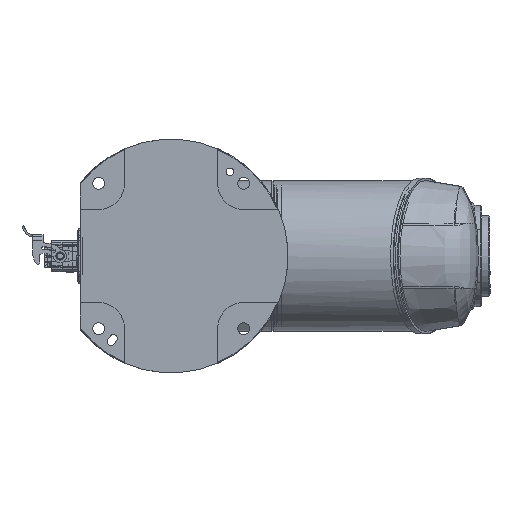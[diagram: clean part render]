
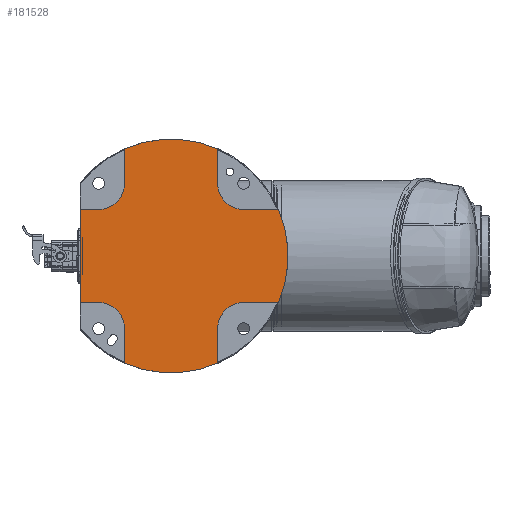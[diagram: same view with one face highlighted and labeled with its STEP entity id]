
A CAD part, front view. The second image highlights one B-rep face of the part: STEP entity #181528.
In plain terms, the highlighted planar face has unit normal (0, -1, 0).
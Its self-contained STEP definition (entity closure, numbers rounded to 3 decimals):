
#55 = DIRECTION ( 'NONE',  ( 0., 0., 1. ) ) ;
#235 = VERTEX_POINT ( 'NONE', #166113 ) ;
#3056 = DIRECTION ( 'NONE',  ( 0., 0., 1. ) ) ;
#3940 = DIRECTION ( 'NONE',  ( 0., 0., -1. ) ) ;
#5875 = VECTOR ( 'NONE', #69474, 1000. ) ;
#6573 = DIRECTION ( 'NONE',  ( 0., 0., -1. ) ) ;
#10489 = VECTOR ( 'NONE', #165124, 1000. ) ;
#13159 = EDGE_CURVE ( 'NONE', #235, #125738, #168222, .T. ) ;
#14698 = CARTESIAN_POINT ( 'NONE',  ( 55.861, 2., -55.861 ) ) ;
#15802 = EDGE_CURVE ( 'NONE', #90125, #20975, #70532, .T. ) ;
#16482 = LINE ( 'NONE', #162201, #109058 ) ;
#20243 = LINE ( 'NONE', #111161, #186956 ) ;
#20975 = VERTEX_POINT ( 'NONE', #171643 ) ;
#21439 = CARTESIAN_POINT ( 'NONE',  ( -35.861, 2., -55.861 ) ) ;
#25688 = VECTOR ( 'NONE', #30021, 1000. ) ;
#25998 = AXIS2_PLACEMENT_3D ( 'NONE', #14698, #89055, #61161 ) ;
#26369 = CARTESIAN_POINT ( 'NONE',  ( 0., 2., 0. ) ) ;
#27655 = DIRECTION ( 'NONE',  ( 0., -1., 0. ) ) ;
#29309 = LINE ( 'NONE', #145190, #5875 ) ;
#30021 = DIRECTION ( 'NONE',  ( 0., 0., 1. ) ) ;
#30135 = ORIENTED_EDGE ( 'NONE', *, *, #74120, .T. ) ;
#30630 = CARTESIAN_POINT ( 'NONE',  ( -55.861, 2., -55.861 ) ) ;
#33577 = ORIENTED_EDGE ( 'NONE', *, *, #86633, .T. ) ;
#39551 = EDGE_CURVE ( 'NONE', #113455, #117697, #184183, .T. ) ;
#41720 = ORIENTED_EDGE ( 'NONE', *, *, #153836, .T. ) ;
#43777 = DIRECTION ( 'NONE',  ( 0., 0., -1. ) ) ;
#45511 = AXIS2_PLACEMENT_3D ( 'NONE', #51333, #81085, #139363 ) ;
#46457 = VERTEX_POINT ( 'NONE', #58087 ) ;
#47118 = DIRECTION ( 'NONE',  ( 0., 0., -1. ) ) ;
#49381 = AXIS2_PLACEMENT_3D ( 'NONE', #179909, #181820, #91868 ) ;
#51333 = CARTESIAN_POINT ( 'NONE',  ( 55.861, 2., -55.861 ) ) ;
#51913 = CARTESIAN_POINT ( 'NONE',  ( 70., 2., -35.861 ) ) ;
#53121 = CARTESIAN_POINT ( 'NONE',  ( -35.861, 2., -82.547 ) ) ;
#53376 = CARTESIAN_POINT ( 'NONE',  ( 55.861, 2., 35.861 ) ) ;
#55190 = AXIS2_PLACEMENT_3D ( 'NONE', #105490, #167007, #3940 ) ;
#58087 = CARTESIAN_POINT ( 'NONE',  ( 70., 2., 35.861 ) ) ;
#58091 = LINE ( 'NONE', #122166, #76668 ) ;
#58978 = VECTOR ( 'NONE', #55, 1000. ) ;
#60668 = CARTESIAN_POINT ( 'NONE',  ( -35.861, 2., 82.547 ) ) ;
#61161 = DIRECTION ( 'NONE',  ( 0., 0., -1. ) ) ;
#61465 = CARTESIAN_POINT ( 'NONE',  ( 35.861, 2., -82.547 ) ) ;
#67142 = CARTESIAN_POINT ( 'NONE',  ( -55.861, 2., -35.861 ) ) ;
#67916 = EDGE_CURVE ( 'NONE', #172184, #135442, #85033, .T. ) ;
#68424 = EDGE_CURVE ( 'NONE', #125738, #90125, #20243, .T. ) ;
#69474 = DIRECTION ( 'NONE',  ( 1., 0., 0. ) ) ;
#70532 = CIRCLE ( 'NONE', #87492, 90. ) ;
#72451 = EDGE_CURVE ( 'NONE', #121697, #172184, #86548, .T. ) ;
#73327 = DIRECTION ( 'NONE',  ( 0., 0., -1. ) ) ;
#74120 = EDGE_CURVE ( 'NONE', #160908, #175417, #88586, .T. ) ;
#74849 = CARTESIAN_POINT ( 'NONE',  ( 35.861, 2., 55.861 ) ) ;
#75339 = CARTESIAN_POINT ( 'NONE',  ( 35.861, 2., 82.547 ) ) ;
#76668 = VECTOR ( 'NONE', #47118, 1000. ) ;
#77168 = EDGE_CURVE ( 'NONE', #175417, #101768, #58091, .T. ) ;
#81085 = DIRECTION ( 'NONE',  ( 0., -1., 0. ) ) ;
#81579 = DIRECTION ( 'NONE',  ( 0., -1., 0. ) ) ;
#85033 = LINE ( 'NONE', #131794, #131453 ) ;
#86548 = CIRCLE ( 'NONE', #49381, 20. ) ;
#86633 = EDGE_CURVE ( 'NONE', #135442, #99071, #139697, .T. ) ;
#87492 = AXIS2_PLACEMENT_3D ( 'NONE', #95176, #81579, #6573 ) ;
#88586 = CIRCLE ( 'NONE', #172117, 20. ) ;
#88969 = CIRCLE ( 'NONE', #168568, 90. ) ;
#89055 = DIRECTION ( 'NONE',  ( 0., 1., 0. ) ) ;
#90125 = VERTEX_POINT ( 'NONE', #141870 ) ;
#91868 = DIRECTION ( 'NONE',  ( 0., 0., -1. ) ) ;
#95176 = CARTESIAN_POINT ( 'NONE',  ( 0., 2., 0. ) ) ;
#96204 = AXIS2_PLACEMENT_3D ( 'NONE', #167547, #180486, #107289 ) ;
#99071 = VERTEX_POINT ( 'NONE', #60668 ) ;
#100409 = DIRECTION ( 'NONE',  ( -1., 0., 0. ) ) ;
#101768 = VERTEX_POINT ( 'NONE', #53121 ) ;
#105490 = CARTESIAN_POINT ( 'NONE',  ( -55.861, 2., 55.861 ) ) ;
#107229 = EDGE_CURVE ( 'NONE', #99071, #235, #16482, .T. ) ;
#107289 = DIRECTION ( 'NONE',  ( 0., 0., -1. ) ) ;
#109058 = VECTOR ( 'NONE', #43777, 1000. ) ;
#109520 = PLANE ( 'NONE',  #45511 ) ;
#111161 = CARTESIAN_POINT ( 'NONE',  ( 55.861, 2., 35.861 ) ) ;
#112001 = ORIENTED_EDGE ( 'NONE', *, *, #107229, .T. ) ;
#113455 = VERTEX_POINT ( 'NONE', #61465 ) ;
#115399 = ORIENTED_EDGE ( 'NONE', *, *, #68424, .T. ) ;
#116218 = VERTEX_POINT ( 'NONE', #167372 ) ;
#117697 = VERTEX_POINT ( 'NONE', #149114 ) ;
#118440 = VERTEX_POINT ( 'NONE', #51913 ) ;
#119236 = LINE ( 'NONE', #134099, #10489 ) ;
#121697 = VERTEX_POINT ( 'NONE', #53376 ) ;
#122166 = CARTESIAN_POINT ( 'NONE',  ( -35.861, 2., -55.861 ) ) ;
#124512 = ORIENTED_EDGE ( 'NONE', *, *, #13159, .T. ) ;
#125738 = VERTEX_POINT ( 'NONE', #163685 ) ;
#125896 = ORIENTED_EDGE ( 'NONE', *, *, #155008, .T. ) ;
#128030 = LINE ( 'NONE', #172280, #144208 ) ;
#131453 = VECTOR ( 'NONE', #3056, 1000. ) ;
#131794 = CARTESIAN_POINT ( 'NONE',  ( 35.861, 2., -55.861 ) ) ;
#134099 = CARTESIAN_POINT ( 'NONE',  ( 55.861, 2., -35.861 ) ) ;
#134641 = EDGE_LOOP ( 'NONE', ( #144005, #185504, #185149, #33577, #112001, #124512, #115399, #183502, #158235, #30135, #147322, #136120, #181679, #41720, #125896, #183307 ) ) ;
#135442 = VERTEX_POINT ( 'NONE', #75339 ) ;
#136120 = ORIENTED_EDGE ( 'NONE', *, *, #188622, .T. ) ;
#139363 = DIRECTION ( 'NONE',  ( 0., 0., -1. ) ) ;
#139697 = CIRCLE ( 'NONE', #96204, 90. ) ;
#141870 = CARTESIAN_POINT ( 'NONE',  ( -82.547, 2., 35.861 ) ) ;
#144005 = ORIENTED_EDGE ( 'NONE', *, *, #149885, .T. ) ;
#144208 = VECTOR ( 'NONE', #100409, 1000. ) ;
#145190 = CARTESIAN_POINT ( 'NONE',  ( 55.861, 2., -35.861 ) ) ;
#146959 = CARTESIAN_POINT ( 'NONE',  ( 35.861, 2., -55.861 ) ) ;
#147322 = ORIENTED_EDGE ( 'NONE', *, *, #77168, .T. ) ;
#149114 = CARTESIAN_POINT ( 'NONE',  ( 35.861, 2., -55.861 ) ) ;
#149885 = EDGE_CURVE ( 'NONE', #46457, #121697, #128030, .T. ) ;
#153836 = EDGE_CURVE ( 'NONE', #117697, #116218, #161190, .T. ) ;
#155008 = EDGE_CURVE ( 'NONE', #116218, #118440, #119236, .T. ) ;
#158235 = ORIENTED_EDGE ( 'NONE', *, *, #162578, .T. ) ;
#160767 = CARTESIAN_POINT ( 'NONE',  ( 70., 2., -55.861 ) ) ;
#160908 = VERTEX_POINT ( 'NONE', #67142 ) ;
#161190 = CIRCLE ( 'NONE', #25998, 20. ) ;
#161481 = EDGE_CURVE ( 'NONE', #118440, #46457, #171407, .T. ) ;
#162201 = CARTESIAN_POINT ( 'NONE',  ( -35.861, 2., -55.861 ) ) ;
#162578 = EDGE_CURVE ( 'NONE', #20975, #160908, #29309, .T. ) ;
#163685 = CARTESIAN_POINT ( 'NONE',  ( -55.861, 2., 35.861 ) ) ;
#165124 = DIRECTION ( 'NONE',  ( 1., 0., 0. ) ) ;
#166113 = CARTESIAN_POINT ( 'NONE',  ( -35.861, 2., 55.861 ) ) ;
#167007 = DIRECTION ( 'NONE',  ( 0., 1., 0. ) ) ;
#167372 = CARTESIAN_POINT ( 'NONE',  ( 55.861, 2., -35.861 ) ) ;
#167547 = CARTESIAN_POINT ( 'NONE',  ( 0., 2., 0. ) ) ;
#168222 = CIRCLE ( 'NONE', #55190, 20. ) ;
#168568 = AXIS2_PLACEMENT_3D ( 'NONE', #26369, #27655, #188730 ) ;
#171183 = FACE_OUTER_BOUND ( 'NONE', #134641, .T. ) ;
#171407 = LINE ( 'NONE', #160767, #25688 ) ;
#171643 = CARTESIAN_POINT ( 'NONE',  ( -82.547, 2., -35.861 ) ) ;
#172117 = AXIS2_PLACEMENT_3D ( 'NONE', #30630, #178782, #73327 ) ;
#172184 = VERTEX_POINT ( 'NONE', #74849 ) ;
#172280 = CARTESIAN_POINT ( 'NONE',  ( 55.861, 2., 35.861 ) ) ;
#175417 = VERTEX_POINT ( 'NONE', #21439 ) ;
#178782 = DIRECTION ( 'NONE',  ( 0., 1., 0. ) ) ;
#179909 = CARTESIAN_POINT ( 'NONE',  ( 55.861, 2., 55.861 ) ) ;
#180486 = DIRECTION ( 'NONE',  ( 0., -1., 0. ) ) ;
#181528 = ADVANCED_FACE ( 'NONE', ( #171183 ), #109520, .T. ) ;
#181679 = ORIENTED_EDGE ( 'NONE', *, *, #39551, .T. ) ;
#181820 = DIRECTION ( 'NONE',  ( 0., 1., 0. ) ) ;
#183307 = ORIENTED_EDGE ( 'NONE', *, *, #161481, .T. ) ;
#183502 = ORIENTED_EDGE ( 'NONE', *, *, #15802, .T. ) ;
#184183 = LINE ( 'NONE', #146959, #58978 ) ;
#184341 = DIRECTION ( 'NONE',  ( -1., 0., 0. ) ) ;
#185149 = ORIENTED_EDGE ( 'NONE', *, *, #67916, .T. ) ;
#185504 = ORIENTED_EDGE ( 'NONE', *, *, #72451, .T. ) ;
#186956 = VECTOR ( 'NONE', #184341, 1000. ) ;
#188622 = EDGE_CURVE ( 'NONE', #101768, #113455, #88969, .T. ) ;
#188730 = DIRECTION ( 'NONE',  ( 0., 0., -1. ) ) ;
